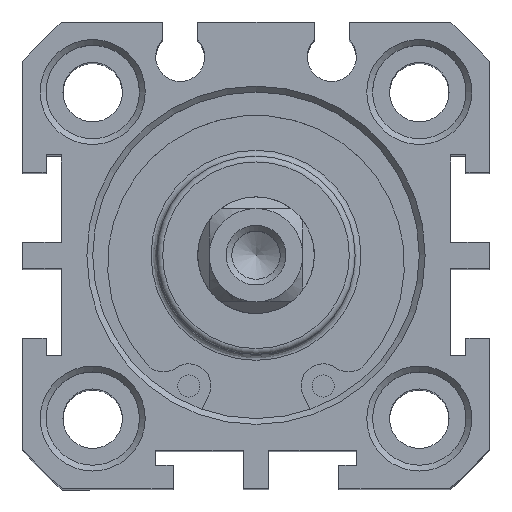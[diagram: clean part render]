
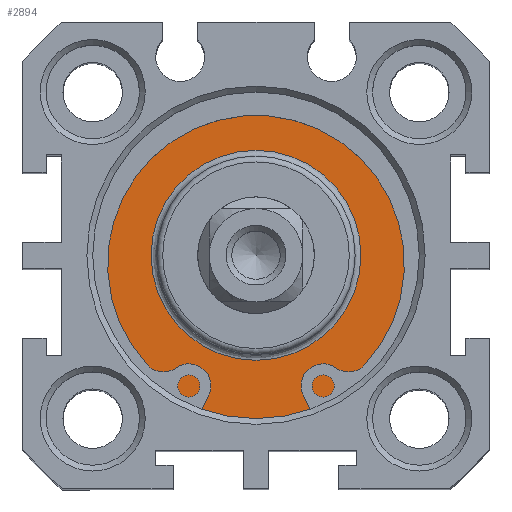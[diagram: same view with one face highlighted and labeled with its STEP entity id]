
A CAD part, top view. The second image highlights one B-rep face of the part: STEP entity #2894.
In plain terms, the highlighted planar face has unit normal (0, 0, 1).
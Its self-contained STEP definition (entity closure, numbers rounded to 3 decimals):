
#2843=CARTESIAN_POINT('',(-2.524,11.284,68.3));
#2844=VERTEX_POINT('',#2843);
#2845=CARTESIAN_POINT('',(-2.524,2.284,68.3));
#2846=DIRECTION('',(0.0,0.0,1.0));
#2847=DIRECTION('',(0.0,-1.0,0.0));
#2848=AXIS2_PLACEMENT_3D('',#2845,#2846,#2847);
#2849=CIRCLE('',#2848,9.);
#2850=EDGE_CURVE('',#2844,#2844,#2849,.T.);
#2875=CARTESIAN_POINT('',(-2.524,13.534,68.3));
#2876=DIRECTION('',(0.0,0.0,1.0));
#2877=DIRECTION('',(1.0,0.0,0.0));
#2878=AXIS2_PLACEMENT_3D('',#2875,#2876,#2877);
#2879=PLANE('',#2878);
#2880=CARTESIAN_POINT('',(-2.524,16.284,68.3));
#2881=VERTEX_POINT('',#2880);
#2882=CARTESIAN_POINT('',(-2.524,2.284,68.3));
#2883=DIRECTION('',(0.0,0.0,-1.0));
#2884=DIRECTION('',(0.0,1.0,0.0));
#2885=AXIS2_PLACEMENT_3D('',#2882,#2883,#2884);
#2886=CIRCLE('',#2885,14.0);
#2887=EDGE_CURVE('',#2881,#2881,#2886,.T.);
#2888=ORIENTED_EDGE('',*,*,#2887,.F.);
#2889=EDGE_LOOP('',(#2888));
#2890=FACE_OUTER_BOUND('',#2889,.T.);
#2891=ORIENTED_EDGE('',*,*,#2850,.F.);
#2892=EDGE_LOOP('',(#2891));
#2893=FACE_BOUND('',#2892,.T.);
#2894=ADVANCED_FACE('',(#2890,#2893),#2879,.T.);
